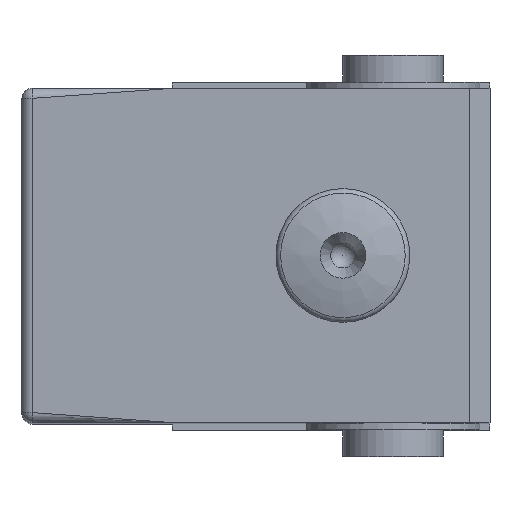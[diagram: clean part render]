
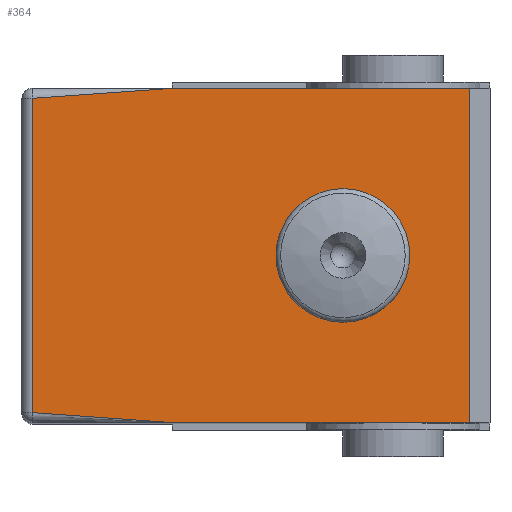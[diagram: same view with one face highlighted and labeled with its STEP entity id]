
A CAD part, top view. The second image highlights one B-rep face of the part: STEP entity #364.
In plain terms, the highlighted planar face has unit normal (0, 0, 1).
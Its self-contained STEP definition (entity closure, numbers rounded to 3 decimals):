
#364 = ADVANCED_FACE( '', ( #773, #774 ), #775, .F. );
#773 = FACE_OUTER_BOUND( '', #1315, .T. );
#774 = FACE_BOUND( '', #1316, .T. );
#775 = PLANE( '', #1317 );
#1315 = EDGE_LOOP( '', ( #2262, #2263, #2264, #2265, #2266, #2267 ) );
#1316 = EDGE_LOOP( '', ( #2268 ) );
#1317 = AXIS2_PLACEMENT_3D( '', #2269, #2270, #2271 );
#2262 = ORIENTED_EDGE( '', *, *, #2750, .T. );
#2263 = ORIENTED_EDGE( '', *, *, #2860, .F. );
#2264 = ORIENTED_EDGE( '', *, *, #2566, .T. );
#2265 = ORIENTED_EDGE( '', *, *, #2636, .T. );
#2266 = ORIENTED_EDGE( '', *, *, #2648, .T. );
#2267 = ORIENTED_EDGE( '', *, *, #2853, .F. );
#2268 = ORIENTED_EDGE( '', *, *, #2789, .T. );
#2269 = CARTESIAN_POINT( '', ( 0., 5.2, 9.1 ) );
#2270 = DIRECTION( '', ( 0., 0., -1. ) );
#2271 = DIRECTION( '', ( -1., 0., 0. ) );
#2566 = EDGE_CURVE( '', #3045, #3046, #3047, .T. );
#2636 = EDGE_CURVE( '', #3046, #3096, #3160, .T. );
#2648 = EDGE_CURVE( '', #3096, #3175, #3177, .F. );
#2750 = EDGE_CURVE( '', #3335, #3333, #3336, .T. );
#2789 = EDGE_CURVE( '', #3385, #3385, #3386, .T. );
#2853 = EDGE_CURVE( '', #3335, #3175, #3467, .T. );
#2860 = EDGE_CURVE( '', #3045, #3333, #3475, .T. );
#3045 = VERTEX_POINT( '', #3722 );
#3046 = VERTEX_POINT( '', #3723 );
#3047 = B_SPLINE_CURVE_WITH_KNOTS( '', 3, ( #3724, #3725, #3726, #3727 ), .UNSPECIFIED., .F., .F., ( 4, 4 ), ( 0., 1. ), .UNSPECIFIED. );
#3096 = VERTEX_POINT( '', #3801 );
#3160 = LINE( '', #3909, #3910 );
#3175 = VERTEX_POINT( '', #3927 );
#3177 = B_SPLINE_CURVE_WITH_KNOTS( '', 3, ( #3932, #3933, #3934, #3935 ), .UNSPECIFIED., .F., .F., ( 4, 4 ), ( 0., 1. ), .UNSPECIFIED. );
#3333 = VERTEX_POINT( '', #4141 );
#3335 = VERTEX_POINT( '', #4144 );
#3336 = LINE( '', #4145, #4146 );
#3385 = VERTEX_POINT( '', #4221 );
#3386 = CIRCLE( '', #4222, 1.5 );
#3467 = LINE( '', #4336, #4337 );
#3475 = LINE( '', #4346, #4347 );
#3722 = CARTESIAN_POINT( '', ( -9.5, 5., 9.1 ) );
#3723 = CARTESIAN_POINT( '', ( -13.7, 4.7, 9.1 ) );
#3724 = CARTESIAN_POINT( '', ( -9.5, 5., 9.1 ) );
#3725 = CARTESIAN_POINT( '', ( -10.9, 4.85, 9.1 ) );
#3726 = CARTESIAN_POINT( '', ( -12.3, 4.7, 9.1 ) );
#3727 = CARTESIAN_POINT( '', ( -13.7, 4.7, 9.1 ) );
#3801 = CARTESIAN_POINT( '', ( -13.7, -4.7, 9.1 ) );
#3909 = CARTESIAN_POINT( '', ( -13.7, 5., 9.1 ) );
#3910 = VECTOR( '', #4597, 1000. );
#3927 = CARTESIAN_POINT( '', ( -9.5, -5., 9.1 ) );
#3932 = CARTESIAN_POINT( '', ( -9.5, -5., 9.1 ) );
#3933 = CARTESIAN_POINT( '', ( -10.9, -4.85, 9.1 ) );
#3934 = CARTESIAN_POINT( '', ( -12.3, -4.7, 9.1 ) );
#3935 = CARTESIAN_POINT( '', ( -13.7, -4.7, 9.1 ) );
#4141 = CARTESIAN_POINT( '', ( -0.6, 5., 9.1 ) );
#4144 = CARTESIAN_POINT( '', ( -0.6, -5., 9.1 ) );
#4145 = CARTESIAN_POINT( '', ( -0.6, 5.2, 9.1 ) );
#4146 = VECTOR( '', #4741, 1000. );
#4221 = CARTESIAN_POINT( '', ( -5.9, 0., 9.1 ) );
#4222 = AXIS2_PLACEMENT_3D( '', #4780, #4781, #4782 );
#4336 = CARTESIAN_POINT( '', ( 0., -5., 9.1 ) );
#4337 = VECTOR( '', #4840, 1000. );
#4346 = CARTESIAN_POINT( '', ( 0., 5., 9.1 ) );
#4347 = VECTOR( '', #4845, 1000. );
#4597 = DIRECTION( '', ( 0., -1., 0. ) );
#4741 = DIRECTION( '', ( 0., 1., 0. ) );
#4780 = CARTESIAN_POINT( '', ( -4.4, 0., 9.1 ) );
#4781 = DIRECTION( '', ( 0., 0., -1. ) );
#4782 = DIRECTION( '', ( -1., 0., 0. ) );
#4840 = DIRECTION( '', ( -1., 0., 0. ) );
#4845 = DIRECTION( '', ( 1., 0., 0. ) );
